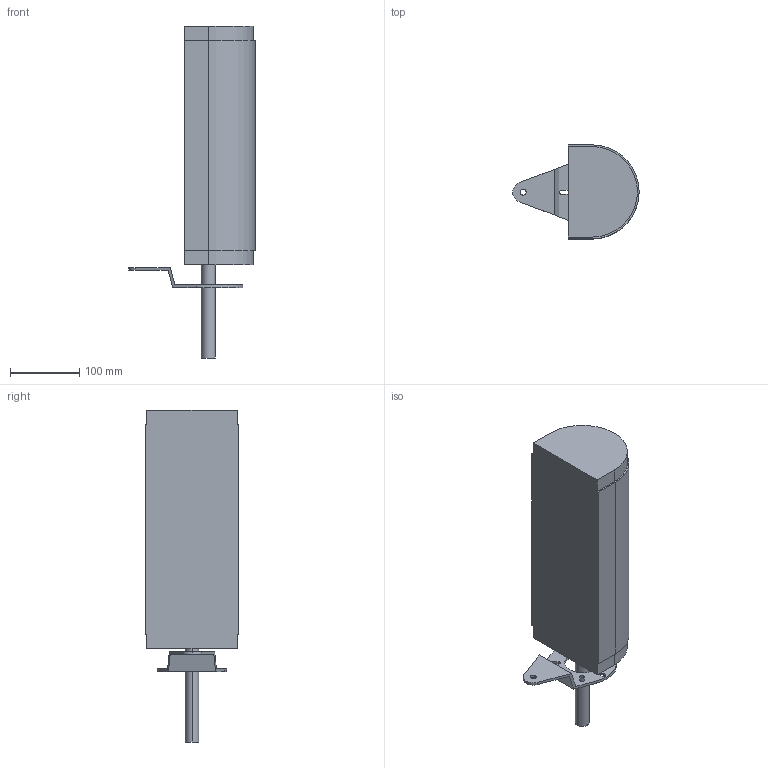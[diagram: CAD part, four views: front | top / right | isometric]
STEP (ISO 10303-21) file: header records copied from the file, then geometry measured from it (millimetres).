
FILE_DESCRIPTION (( 'STEP AP214' ), '1' );
FILE_NAME ('FS-MTC-150 350 links ra.STEP', '2017-12-21T09:27:16', ( '' ), ( '' ), 'SwSTEP 2.0', 'SolidWorks 2017', '' );
FILE_SCHEMA (( 'AUTOMOTIVE_DESIGN' ));
Length unit declared in the file: millimetre
Products named in the file (1): FS-MTC-150 350 links ra
Bounding box: 183 x 136 x 481 mm (x, y, z)
Volume: 4212604.8 mm3; surface area: 200435.1 mm2
Topology: 2 solids, 2 shells, 70 faces, 195 edges, 130 vertices
Faces by surface type: plane 36, cylinder 34
Entity records: 2350 total; most frequent: DIRECTION 405, CARTESIAN_POINT 396, ORIENTED_EDGE 390, EDGE_CURVE 195, AXIS2_PLACEMENT_3D 139, VERTEX_POINT 130, VECTOR 127, LINE 127
